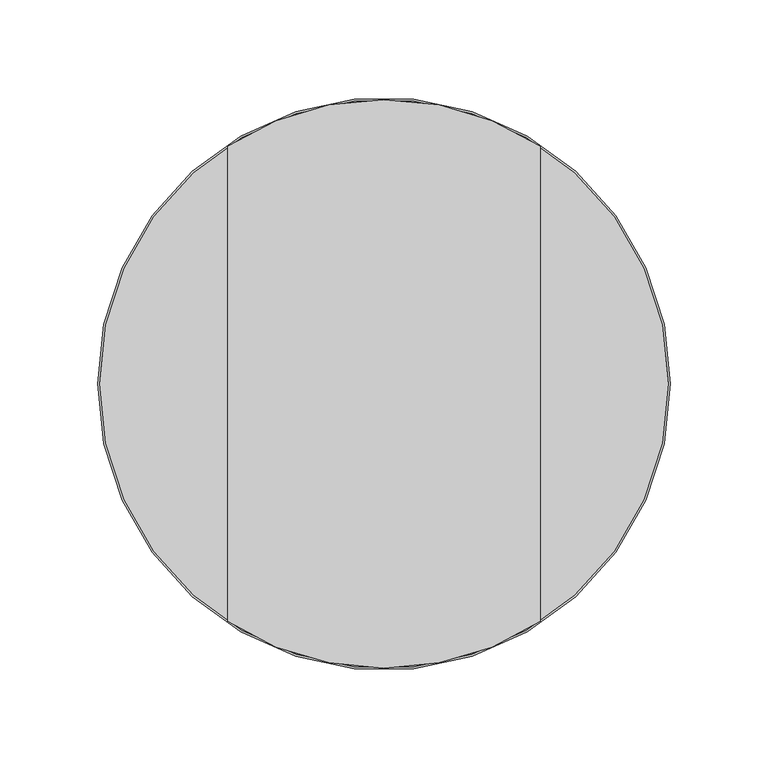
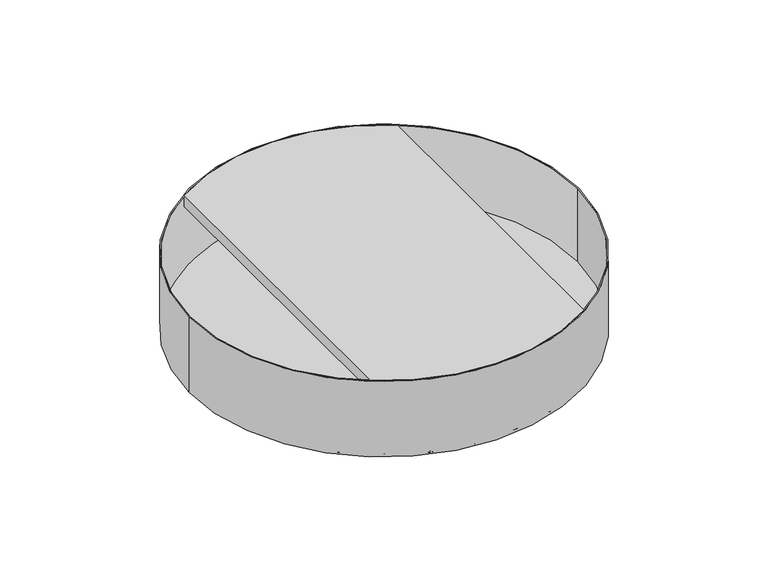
"""IFC4 building model written with IfcOpenShell, lengths in millimetres: proxy geometry, durlum_TOMEO-R : durlum_TOMEO-R 300 RG-L30 TR."""

from ifc_helpers import new_model, si_unit, point, frame, origin, origin_with_axes, origin_2d, place, context, project, spatial, circle_curve, trimmed, segment, composite_curve, outline, extrude, source, transform, mapped, element, save
from ifc_brep_helpers import plane_surface, cylinder_surface, advanced_brep


def generic_models_24dc685e(model_context):
    return source(origin(), model_context, "Body", "SolidModel", [
        advanced_brep(
        [(-80.0, 121.5329174, 60.0), (-80.0, -121.5329174, 60.0), (0.0, -145.5, 60.0), (80.0, -121.5329174, 60.0), (80.0, 121.5329174, 60.0), (0.0, 145.5, 60.0), (80.0, -121.5329174, 51.2547795), (80.0, 121.5329174, 51.2547795), (78.5, -122.5071426, 51.2547795), (78.5, 122.5071426, 51.2547795), (78.5, -122.5071426, 58.5), (78.5, 122.5071426, 58.5), (0.0, -145.5, 58.5), (-78.5, -122.5071426, 58.5), (-78.5, 122.5071426, 58.5), (0.0, 145.5, 58.5), (-78.5, -122.5071426, 51.2547795), (-78.5, 122.5071426, 51.2547795), (-80.0, -121.5329174, 51.2547795), (-80.0, 121.5329174, 51.2547795)],
        [
            (0, 1),
            (1, 2, circle_curve(frame((0.0, 0.0, 60.0), z_axis=(0.0, 0.0, 1.0), x_axis=(0.0, -1.0, 0.0)), 145.5)),
            (2, 3, circle_curve(frame((0.0, 0.0, 60.0), z_axis=(0.0, 0.0, 1.0), x_axis=(0.0, -1.0, 0.0)), 145.5)),
            (3, 4),
            (4, 5, circle_curve(frame((0.0, 0.0, 60.0), z_axis=(0.0, 0.0, 1.0), x_axis=(0.0, -1.0, 0.0)), 145.5)),
            (5, 0, circle_curve(frame((0.0, 0.0, 60.0), z_axis=(0.0, 0.0, 1.0), x_axis=(0.0, -1.0, 0.0)), 145.5)),
            (3, 6),
            (6, 7),
            (7, 4),
            (6, 8, circle_curve(frame((0.0, 0.0, 51.2547795), z_axis=(0.0, 0.0, -1.0), x_axis=(0.0, -1.0, 0.0)), 145.5)),
            (8, 9),
            (9, 7, circle_curve(frame((0.0, 0.0, 51.2547795), z_axis=(0.0, 0.0, -1.0), x_axis=(0.0, -1.0, 0.0)), 145.5)),
            (8, 10),
            (10, 11),
            (11, 9),
            (10, 12, circle_curve(frame((0.0, 0.0, 58.5), z_axis=(0.0, 0.0, -1.0), x_axis=(0.0, -1.0, 0.0)), 145.5)),
            (12, 13, circle_curve(frame((0.0, 0.0, 58.5), z_axis=(0.0, 0.0, -1.0), x_axis=(0.0, -1.0, 0.0)), 145.5)),
            (13, 14),
            (14, 15, circle_curve(frame((0.0, 0.0, 58.5), z_axis=(0.0, 0.0, -1.0), x_axis=(0.0, -1.0, 0.0)), 145.5)),
            (15, 11, circle_curve(frame((0.0, 0.0, 58.5), z_axis=(0.0, 0.0, -1.0), x_axis=(0.0, -1.0, 0.0)), 145.5)),
            (13, 16),
            (16, 17),
            (17, 14),
            (16, 18, circle_curve(frame((0.0, 0.0, 51.2547795), z_axis=(0.0, 0.0, -1.0), x_axis=(0.0, -1.0, 0.0)), 145.5)),
            (18, 19),
            (19, 17, circle_curve(frame((0.0, 0.0, 51.2547795), z_axis=(0.0, 0.0, -1.0), x_axis=(0.0, -1.0, 0.0)), 145.5)),
            (0, 19),
            (18, 1),
            (5, 15),
            (12, 2),
        ],
        [
            plane_surface(frame((-80.0, 145.5, 60.0), z_axis=(0.0, 0.0, 1.0), x_axis=(0.0, -1.0, 0.0))),
            plane_surface(frame((80.0, 145.5, 60.0), z_axis=(1.0, 0.0, 0.0), x_axis=(0.0, -1.0, 0.0))),
            plane_surface(frame((80.0, 145.5, 51.2547795), z_axis=(0.0, 0.0, -1.0), x_axis=(0.0, -1.0, 0.0))),
            plane_surface(frame((78.5, 145.5, 51.2547795), z_axis=(-1.0, 0.0, 0.0), x_axis=(0.0, -1.0, 0.0))),
            plane_surface(frame((78.5, 145.5, 58.5), z_axis=(0.0, 0.0, -1.0), x_axis=(0.0, -1.0, 0.0))),
            plane_surface(frame((-78.5, 145.5, 58.5), z_axis=(1.0, 0.0, 0.0), x_axis=(0.0, -1.0, 0.0))),
            plane_surface(frame((-78.5, 145.5, 51.2547795), z_axis=(0.0, 0.0, -1.0), x_axis=(0.0, -1.0, 0.0))),
            plane_surface(frame((-80.0, 145.5, 51.2547795), z_axis=(-1.0, 0.0, 0.0), x_axis=(0.0, -1.0, 0.0))),
            cylinder_surface(frame((0.0, 0.0, 243.6547052), z_axis=(0.0, 0.0, -1.0), x_axis=(0.0, -1.0, 0.0)), 145.5),
        ],
        [
            (0, [[1, 2, 3, 4, 5, 6]]),
            (1, [[-4, 7, 8, 9]]),
            (2, [[-8, 10, 11, 12]]),
            (3, [[-11, 13, 14, 15]]),
            (4, [[-14, 16, 17, 18, 19, 20]]),
            (5, [[-18, 21, 22, 23]]),
            (6, [[-22, 24, 25, 26]]),
            (7, [[-1, 27, -25, 28]]),
            (8, [[29, -19, -23, -26, -27, -6]]),
            (8, [[30, -2, -28, -24, -21, -17]]),
            (8, [[-29, -5, -9, -12, -15, -20]]),
            (8, [[-30, -16, -13, -10, -7, -3]]),
        ],
    ),
        extrude(outline(composite_curve([segment(trimmed(circle_curve(origin_2d(), 145.5), [point((-145.5, 0.0))], [point((145.5, 0.0))], False, "CARTESIAN"), True, "CONTINUOUS"), segment(trimmed(circle_curve(origin_2d(), 145.5), [point((145.5, 0.0))], [point((-145.5, 0.0))], False, "CARTESIAN"), True, "CONTINUOUS")], self_intersect=False)), frame((0.0, 0.0, 1.0), z_axis=(0.0, 0.0, 1.0), x_axis=(1.0, 0.0, 0.0)), (0.0, 0.0, 1.0), 1.0),
        extrude(outline(composite_curve([segment(trimmed(circle_curve(origin_2d(), 131.5), [point((-131.5, 0.0))], [point((131.5, 0.0))], False, "CARTESIAN"), True, "CONTINUOUS"), segment(trimmed(circle_curve(origin_2d(), 131.5), [point((131.5, 0.0))], [point((-131.5, 0.0))], False, "CARTESIAN"), True, "CONTINUOUS")], self_intersect=False)), origin_with_axes(), (0.0, 0.0, 1.0), 1.0),
        extrude(outline(composite_curve([segment(trimmed(circle_curve(origin_2d(), 145.5), [point((-145.5, 0.0))], [point((145.5, 0.0))], False, "CARTESIAN"), True, "CONTINUOUS"), segment(trimmed(circle_curve(origin_2d(), 145.5), [point((145.5, 0.0))], [point((-145.5, 0.0))], False, "CARTESIAN"), True, "CONTINUOUS")], self_intersect=False), holes=[composite_curve([segment(trimmed(circle_curve(origin_2d(), 131.5), [point((-131.5, 0.0))], [point((131.5, 0.0))], True, "CARTESIAN"), True, "CONTINUOUS"), segment(trimmed(circle_curve(origin_2d(), 131.5), [point((131.5, 0.0))], [point((-131.5, 0.0))], True, "CARTESIAN"), True, "CONTINUOUS")], self_intersect=False)]), origin_with_axes(), (0.0, 0.0, 1.0), 1.0),
        extrude(outline(composite_curve([segment(trimmed(circle_curve(origin_2d(), 146.5), [point((-146.5, 0.0))], [point((146.5, 0.0))], False, "CARTESIAN"), True, "CONTINUOUS"), segment(trimmed(circle_curve(origin_2d(), 146.5), [point((146.5, 0.0))], [point((-146.5, 0.0))], False, "CARTESIAN"), True, "CONTINUOUS")], self_intersect=False), holes=[composite_curve([segment(trimmed(circle_curve(origin_2d(), 145.5), [point((-145.5, 0.0))], [point((145.5, 0.0))], True, "CARTESIAN"), True, "CONTINUOUS"), segment(trimmed(circle_curve(origin_2d(), 145.5), [point((145.5, 0.0))], [point((-145.5, 0.0))], True, "CARTESIAN"), True, "CONTINUOUS")], self_intersect=False)]), origin_with_axes(), (0.0, 0.0, 1.0), 60.0),
    ])


if __name__ == "__main__":
    model = new_model("IFC4")
    model_context = context("Model", 3, world=origin())
    ifc_project = project(units=[si_unit("LENGTHUNIT", "METRE", prefix="MILLI")], contexts=[model_context])
    site = spatial("IfcSite", under=ifc_project)
    building = spatial("IfcBuilding", under=site)
    placement = place(None, origin())
    generic_models_shape = generic_models_24dc685e(model_context)
    element("IfcBuildingElementProxy", 1, Name="durlum_TOMEO-R : durlum_TOMEO-R 300 RG-L30 TR", ObjectType="durlum_TOMEO-R : durlum_TOMEO-R 300 RG-L30 TR", at=placement, inside=building, context=model_context, shape_type="MappedRepresentation", body=[
        mapped(generic_models_shape, transform((0.0, 0.0, 0.0), x_axis=(1.0, 0.0, 0.0), y_axis=(0.0, 1.0, 0.0), z_axis=(0.0, 0.0, 1.0))),
    ])
    save(model, "model.ifc")
